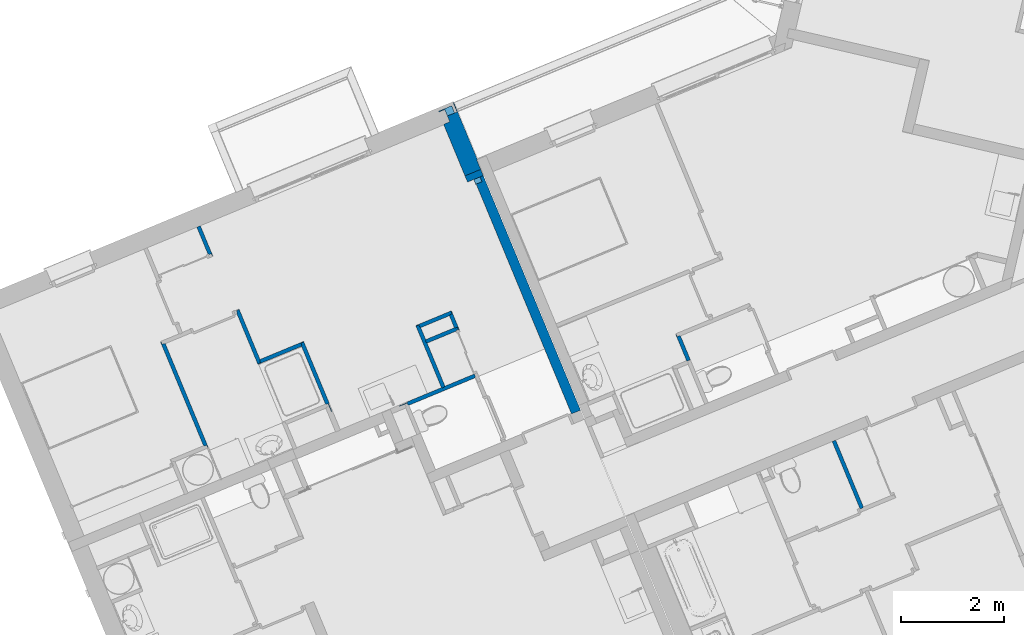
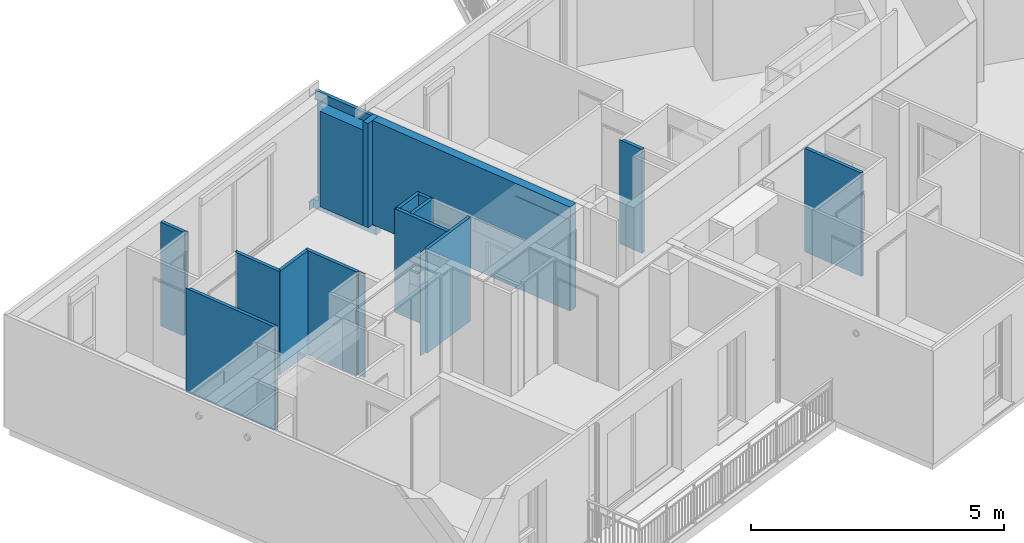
# One storey, part 42 of 90: 15 walls.
"""IFC2X3 building model written with IfcOpenShell, lengths in metres."""

from ifc_helpers import new_model, entity, si_unit, converted_unit, derived_unit, money_unit, direction, frame, origin_with_axes, place, context, subcontext, project, spatial, faceted_brep, material, material_list, type_object, element, save


model = new_model("IFC2X3")

# Units and contexts
model_context = context("Model", 3, precision=1e-05, world=origin_with_axes(), true_north=direction((0.0, 1.0)))
body_context = subcontext(model_context, "Body", "Model", "MODEL_VIEW")
ifc_project = project(units=[si_unit("LENGTHUNIT", "METRE"), si_unit("AREAUNIT", "SQUARE_METRE"), si_unit("VOLUMEUNIT", "CUBIC_METRE"), converted_unit("PLANEANGLEUNIT", "DEGREE", entity("IfcPlaneAngleMeasure", 0.0174532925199), si_unit("PLANEANGLEUNIT", "RADIAN"), dimensions=[0, 0, 0, 0, 0, 0, 0]), si_unit("SOLIDANGLEUNIT", "STERADIAN"), money_unit("EUR"), converted_unit("TIMEUNIT", "Year", entity("IfcTimeMeasure", 31556926.0), si_unit("TIMEUNIT", "SECOND"), dimensions=[0, 0, 1, 0, 0, 0, 0]), si_unit("MASSUNIT", "GRAM", prefix="KILO"), si_unit("THERMODYNAMICTEMPERATUREUNIT", "DEGREE_CELSIUS"), si_unit("LUMINOUSINTENSITYUNIT", "LUMEN"), si_unit("ENERGYUNIT", "JOULE", prefix="MEGA"), derived_unit("THERMALCONDUCTANCEUNIT", [(si_unit("POWERUNIT", "WATT"), 1), (si_unit("LENGTHUNIT", "METRE"), -1), (si_unit("THERMODYNAMICTEMPERATUREUNIT", "KELVIN"), -1)]), derived_unit("SPECIFICHEATCAPACITYUNIT", [(si_unit("ENERGYUNIT", "JOULE"), 1), (si_unit("MASSUNIT", "GRAM", prefix="KILO"), -1), (si_unit("THERMODYNAMICTEMPERATUREUNIT", "KELVIN"), -1)]), derived_unit("MASSDENSITYUNIT", [(si_unit("MASSUNIT", "GRAM", prefix="KILO"), 1), (si_unit("VOLUMEUNIT", "CUBIC_METRE"), -1)])], contexts=[model_context])

# Site, building, storey
site_placement = place(None, origin_with_axes())
site = spatial("IfcSite", under=ifc_project, at=site_placement, Name="Site", CompositionType="ELEMENT")
building_placement = place(site_placement, origin_with_axes())
building = spatial("IfcBuilding", under=site, at=building_placement, Name="Bâtiment", CompositionType="ELEMENT")
storey_placement = place(building_placement, frame((0.0, 0.0, 2.72), z_axis=(0.0, 0.0, 1.0), x_axis=(1.0, 0.0, 0.0)))
storey = spatial("IfcBuildingStorey", under=building, at=storey_placement, Name="R+1", CompositionType="ELEMENT", Elevation=2.72)

# Walls
ifc_material_1 = material(Name="Finition int - Plaque de plâtre")
ifc_material_2 = material(Name="Isolation - Polystyrène extrudé")
ifc_material_3 = material(Name="Bloc ELITHERM")
ifc_material_4 = material(Name="Isolation - Polystyrène expansé")
ifc_material_5 = material(Name="Mortier")
ifc_material_6 = material(Name="Béton cellulaire")
ifc_material_7 = material(Name="Finition ext - Crépis")
ifc_material_list_1 = material_list([ifc_material_1, ifc_material_2, ifc_material_3, ifc_material_4, ifc_material_5, ifc_material_6, ifc_material_7])
wall_type_1 = type_object("IfcWallType", Name="Mur ALKERN + planelle 21 345 x 2720", PredefinedType="USERDEFINED")
wall_1_placement = place(storey_placement, frame((-25.5579248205, -15.1553812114, -0.21), z_axis=(0.0, 0.0, 1.0), x_axis=(-0.383112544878, 0.923701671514, 0.0)))
element("IfcWall", 1, at=wall_1_placement, inside=storey, type_object=wall_type_1, material=ifc_material_list_1, Name="Mue bloc ALKERN isolé", ObjectType="SOLIDWALL", context=body_context, shape_type="Brep", body=[
    faceted_brep([(-0.344999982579, 0.34499998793, 0.21), (-0.344999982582, 0.335000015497, 0.21), (-0.344999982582, 0.335000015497, 2.51), (-0.344999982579, 0.34499998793, 2.51), (0.855000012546, 0.335000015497, 0.21), (0.855000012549, 0.34499998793, 0.21), (0.855000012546, 0.335000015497, 2.50999999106), (0.855000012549, 0.34499998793, 2.50999999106)], [[[0, 1, 2, 3]], [[4, 1, 0, 5]], [[1, 4, 6, 2]], [[2, 6, 7, 3]], [[5, 0, 3, 7]], [[4, 5, 7, 6]]]),
    faceted_brep([(1.11700000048, 0.335000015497, 0.209999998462), (1.11700000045, 0.214999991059, 0.209999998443), (1.1370000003, 0.215000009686, 0.209999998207), (1.13700000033, 0.335000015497, 0.209999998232), (1.11700000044, 0.214999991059, 0.00999999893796), (1.11700000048, 0.335000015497, 0.00999999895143), (1.1370000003, 0.215000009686, 0.009999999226), (1.13700000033, 0.335000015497, 0.00999999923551)], [[[0, 1, 2, 3]], [[4, 1, 0, 5]], [[1, 4, 6, 2]], [[7, 3, 2, 6]], [[5, 0, 3, 7]], [[4, 5, 7, 6]]]),
    faceted_brep([(-0.335000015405, 0.335000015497, 0.21), (-0.335000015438, 0.214999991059, 0.20999999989), (-0.335000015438, 0.215000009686, 2.50999999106), (-0.335000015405, 0.335000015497, 2.50999999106), (0.864999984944, 0.214999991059, 0.209999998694), (0.864999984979, 0.335000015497, 0.21), (0.864999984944, 0.215000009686, 2.50999999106), (0.864999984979, 0.335000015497, 2.50999999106)], [[[0, 1, 2, 3]], [[4, 1, 0, 5]], [[1, 4, 6, 2]], [[7, 3, 2, 6]], [[5, 0, 3, 7]], [[4, 5, 7, 6]]]),
    faceted_brep([(-0.215000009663, 0.0829999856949, 2.50999999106), (-0.215000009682, 0.015, 2.50999999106), (0.985000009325, 0.015, 2.50999999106), (0.985000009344, 0.0829999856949, 2.50999999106), (-0.215000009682, 0.015, 0.21), (-0.215000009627, 0.214999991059, 2.50999999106), (-0.215000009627, 0.214999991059, 0.21), (-0.215000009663, 0.0830000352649, 0.21), (-0.0830000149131, 0.015, 0.209999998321), (-0.0149999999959, 0.0150000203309, 0.209999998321), (0.985000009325, 0.015000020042, 0.21), (0.985000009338, 0.0630000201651, 0.21), (0.985000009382, 0.214999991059, 0.21), (0.985000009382, 0.214999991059, 2.50999999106), (1.1370000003, 0.214999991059, 0.209999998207), (1.1370000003, 0.214999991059, 0.009999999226), (1.11700000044, 0.214999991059, 0.00999999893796), (1.11700000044, 0.214999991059, 0.0), (-0.44499998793, 0.214999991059, 0.0), (-0.44499998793, 0.214999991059, 0.21), (-0.344999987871, 0.214999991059, 0.21), (-0.335000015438, 0.214999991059, 0.21), (-0.335000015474, 0.0830000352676, 0.21), (-0.0830000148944, 0.083000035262, 0.209999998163), (-0.0830000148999, 0.0630000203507, 0.209999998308), (-0.0630000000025, 0.0630000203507, 0.209999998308), (-0.0149999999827, 0.0630000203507, 0.209999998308), (1.13700000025, 0.0630000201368, 0.209999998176), (1.13700000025, 0.0630000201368, 0.00999999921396), (1.13700000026, 0.0830000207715, 0.00999999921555), (1.1170000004, 0.0830000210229, 0.00999999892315), (1.1170000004, 0.0830000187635, 0.0), (-0.0149999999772, 0.0830000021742, 0.0), (-0.0829999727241, 0.0830000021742, 0.0), (-0.44499998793, 0.0829999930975, 0.0), (-0.44499998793, 0.0830000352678, 0.0099999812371), (-0.44499998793, 0.0830000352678, 0.21), (-0.344999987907, 0.0830000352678, 0.21), (-0.0830000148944, 0.083000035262, 0.0099999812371), (-0.062999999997, 0.083000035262, 0.209999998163), (-0.0630000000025, 0.0630000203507, 0.00999998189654), (-0.0149999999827, 0.0630000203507, 0.00999998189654), (-0.0149999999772, 0.0830000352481, 0.0099999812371), (-0.062999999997, 0.083000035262, 0.0099999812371)], [[[0, 1, 2, 3]], [[4, 1, 0, 5, 6, 7]], [[1, 4, 8, 9, 10, 2]], [[3, 2, 10, 11, 12, 13]], [[5, 0, 3, 13]], [[6, 5, 13, 12, 14, 15, 16, 17, 18, 19, 20, 21]], [[21, 22, 7, 6]], [[4, 7, 23, 24, 8]], [[9, 8, 24, 25, 26]], [[11, 10, 9, 26]], [[27, 14, 12, 11]], [[14, 27, 28, 29, 15]], [[15, 29, 30, 16]], [[30, 31, 17, 16]], [[17, 31, 32, 33, 34, 18]], [[35, 36, 19, 18, 34]], [[37, 20, 19, 36]], [[22, 21, 20, 37]], [[7, 22, 37, 36, 35, 38, 23]], [[24, 23, 39, 25]], [[40, 41, 26, 25]], [[28, 27, 11, 26, 41]], [[29, 28, 41, 42, 30]], [[31, 30, 42, 32]], [[43, 38, 33, 32, 42]], [[33, 38, 35, 34]], [[23, 38, 43, 39]], [[43, 40, 25, 39]], [[40, 43, 42, 41]]]),
    faceted_brep([(0.864999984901, 0.0630000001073, 2.51999999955), (0.864999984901, 0.0630000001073, 2.72), (-0.344999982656, 0.0630000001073, 2.72000000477), (-0.344999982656, 0.0630000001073, 2.51999999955), (0.864999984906, 0.083000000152, 2.72), (0.864999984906, 0.083000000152, 2.51999999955), (-0.344999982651, 0.083000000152, 2.72000000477), (-0.344999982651, 0.083000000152, 2.51999999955)], [[[0, 1, 2, 3]], [[4, 1, 0, 5]], [[1, 4, 6, 2]], [[7, 3, 2, 6]], [[5, 0, 3, 7]], [[4, 5, 7, 6]]]),
    faceted_brep([(-0.344999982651, 0.083, 2.52), (-0.34499998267, 0.015, 2.52), (1.19999999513, 0.015, 2.52), (1.19999999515, 0.083, 2.52), (-0.34499998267, 0.015, 2.51), (-0.344999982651, 0.083, 2.51), (1.19999999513, 0.015, 2.51), (1.19999999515, 0.083, 2.51)], [[[0, 1, 2, 3]], [[4, 1, 0, 5]], [[1, 4, 6, 2]], [[3, 2, 6, 7]], [[5, 0, 3, 7]], [[4, 5, 7, 6]]]),
    faceted_brep([(-0.344999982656, 0.0629999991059, 2.72000000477), (-0.34499998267, 0.015, 2.72000000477), (1.19999999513, 0.015, 2.72000000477), (1.19999999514, 0.0629999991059, 2.72000000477), (-0.34499998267, 0.015, 2.51999999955), (-0.344999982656, 0.0629999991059, 2.51999999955), (1.19999999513, 0.015, 2.51999999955), (1.19999999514, 0.0629999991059, 2.51999999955)], [[[0, 1, 2, 3]], [[4, 1, 0, 5]], [[1, 4, 6, 2]], [[3, 2, 6, 7]], [[5, 0, 3, 7]], [[4, 5, 7, 6]]]),
    faceted_brep([(1.19999999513, 0.0149999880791, 2.72000000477), (-0.0149999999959, 0.0149999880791, 2.71999999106), (-0.015, 0.0, 2.71999999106), (1.19999999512, 0.0, 2.72000000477), (-0.0149999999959, 0.0150000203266, 0.21), (1.20000000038, 0.0149999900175, 2.50999999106), (1.1850000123, 0.0149999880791, 2.50999999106), (1.1850000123, 0.015000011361, 0.21), (-1.59095137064e-09, 0.0150000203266, 0.209999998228), (-0.015, 1.926544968e-08, 0.21), (-1.59507429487e-09, 2.35151809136e-08, 0.209999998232), (1.1850000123, 2.31727952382e-08, 0.21), (1.1850000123, 0.0, 2.50999999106), (1.20000000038, 1.93839255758e-09, 2.50999999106)], [[[0, 1, 2, 3]], [[4, 1, 0, 5, 6, 7, 8]], [[9, 2, 1, 4]], [[3, 2, 9, 10, 11, 12, 13]], [[3, 13, 5, 0]], [[5, 13, 12, 6]], [[6, 12, 11, 7]], [[8, 7, 11, 10]], [[10, 9, 4, 8]]]),
])
ifc_material_8 = material(Name="Isolation - Laine de roche")
ifc_material_list_2 = material_list([ifc_material_1, ifc_material_8, ifc_material_1])
wall_type_2 = type_object("IfcWallType", Name="3 - Cloison 72mm Placostil 74", PredefinedType="USERDEFINED")
wall_2_placement = place(storey_placement, frame((-25.5578025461, -19.2928415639, 0.0), z_axis=(0.0, 0.0, 1.0), x_axis=(-0.923701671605, -0.383112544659, 0.0)))
element("IfcWall", 2, at=wall_2_placement, inside=storey, type_object=wall_type_2, material=ifc_material_list_2, Name="Cloison Placostil 72/48", ObjectType="PARTITIONING", context=body_context, shape_type="Brep", body=[
    faceted_brep([(0.0739999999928, 0.061, 2.5), (1.46199999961, 0.061, 2.5), (1.46199999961, 0.0740000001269, 2.5), (0.0739999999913, 0.074, 2.5), (0.0739999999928, 0.061, 0.0), (1.46199999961, 0.061, 0.0), (1.46199999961, 0.0740000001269, 0.0), (0.0739999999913, 0.074, 0.0)], [[[0, 1, 2, 3]], [[4, 5, 1, 0]], [[5, 6, 2, 1]], [[3, 2, 6, 7]], [[3, 7, 4, 0]], [[7, 6, 5, 4]]]),
    faceted_brep([(1.63599999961, 0.0260000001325, 2.5), (1.52299999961, 0.0260000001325, 2.5), (1.47499999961, 0.0260000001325, 2.5), (1.47499999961, 0.061, 2.5), (0.0609999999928, 0.061, 2.5), (0.0609999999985, 0.013, 2.5), (1.63599999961, 0.013, 2.5), (1.63599999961, 0.0260000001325, 0.0), (1.52299999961, 0.0260000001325, 0.0), (1.47499999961, 0.0260000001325, 0.0), (1.47499999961, 0.061, 0.0), (0.0609999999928, 0.061, 0.0), (0.0609999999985, 0.013, 0.0), (1.63599999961, 0.013, 0.0)], [[[0, 1, 2, 3, 4, 5, 6]], [[7, 8, 9, 2, 1, 0]], [[9, 10, 3, 2]], [[4, 3, 10, 11]], [[4, 11, 12, 5]], [[6, 5, 12, 13]], [[13, 7, 0, 6]], [[10, 9, 8, 7, 13, 12, 11]]]),
    faceted_brep([(0.735000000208, 0.0, 2.5), (1.46199999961, 1.32503785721e-10, 2.5), (1.46199999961, 0.0130000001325, 2.5), (0.735000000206, 0.013, 2.5), (0.735000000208, 0.0, 0.0), (1.46199999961, 1.32503785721e-10, 0.0), (1.46199999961, 0.0130000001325, 0.0), (0.735000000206, 0.013, 0.0)], [[[0, 1, 2, 3]], [[4, 5, 1, 0]], [[5, 6, 2, 1]], [[3, 2, 6, 7]], [[3, 7, 4, 0]], [[7, 6, 5, 4]]]),
    faceted_brep([(0.687000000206, 0.013, 0.0), (0.0609999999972, 0.013, 0.0), (0.0609999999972, 0.013, 2.5), (0.687000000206, 0.013, 2.5), (0.687000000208, 0.0, 0.0), (0.061, 0.0, 0.0), (0.061, 0.0, 2.5), (0.687000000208, 0.0, 2.5)], [[[0, 1, 2, 3]], [[4, 5, 1, 0]], [[5, 6, 2, 1]], [[3, 2, 6, 7]], [[3, 7, 4, 0]], [[7, 6, 5, 4]]]),
])
wall_3_placement = place(storey_placement, frame((-25.9026038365, -18.4615100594, 0.0), z_axis=(0.0, 0.0, 1.0), x_axis=(-0.383112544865, 0.923701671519, 0.0)))
element("IfcWall", 3, at=wall_3_placement, inside=storey, type_object=wall_type_2, material=ifc_material_list_2, Name="Cloison Placostil 72/48", ObjectType="PARTITIONING", context=body_context, shape_type="Brep", body=[
    faceted_brep([(0.32472765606, 0.074, 0.0), (0.324727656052, 0.061, 0.0), (0.0740000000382, 0.061, 0.0), (0.0740000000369, 0.074, 0.0), (0.32472765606, 0.074, 2.5), (0.324727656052, 0.061, 2.5), (0.0740000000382, 0.061, 2.5), (0.0740000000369, 0.074, 2.5)], [[[0, 1, 2, 3]], [[1, 0, 4, 5]], [[1, 5, 6, 2]], [[7, 3, 2, 6]], [[4, 0, 3, 7]], [[5, 4, 7, 6]]]),
    faceted_brep([(0.337727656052, 0.061, 0.0), (0.337727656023, 0.013, 0.0), (0.0610000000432, 0.013, 0.0), (0.0610000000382, 0.061, 0.0), (0.337727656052, 0.061, 2.5), (0.337727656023, 0.013, 2.5), (0.0610000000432, 0.013, 2.5), (0.0610000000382, 0.061, 2.5)], [[[0, 1, 2, 3]], [[1, 0, 4, 5]], [[1, 5, 6, 2]], [[7, 3, 2, 6]], [[4, 0, 3, 7]], [[5, 4, 7, 6]]]),
    faceted_brep([(0.0130000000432, 0.013, 0.0), (0.385727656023, 0.013, 0.0), (0.385727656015, 0.0, 0.0), (0.0130000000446, 0.0, 0.0), (0.0130000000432, 0.013, 2.5), (0.385727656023, 0.013, 2.5), (0.385727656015, 0.0, 2.5), (0.0130000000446, 0.0, 2.5)], [[[0, 1, 2, 3]], [[4, 5, 1, 0]], [[6, 2, 1, 5]], [[3, 2, 6, 7]], [[7, 4, 0, 3]], [[7, 6, 5, 4]]]),
])
wall_4_placement = place(storey_placement, frame((-26.5251787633, -18.7197279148, 0.0), z_axis=(0.0, 0.0, 1.0), x_axis=(0.923701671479, 0.383112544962, 0.0)))
element("IfcWall", 4, at=wall_4_placement, inside=storey, type_object=wall_type_2, material=ifc_material_list_2, Name="Cloison Placostil 72/48", ObjectType="PARTITIONING", context=body_context, shape_type="Brep", body=[
    faceted_brep([(0.613000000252, 0.074, 0.0), (0.613000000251, 0.061, 0.0), (1.45170986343e-10, 0.061, 0.0), (1.48048684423e-10, 0.074, 0.0), (0.613000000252, 0.074, 2.5), (0.613000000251, 0.061, 2.5), (1.45170986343e-10, 0.061, 2.5), (1.48048684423e-10, 0.074, 2.5)], [[[0, 1, 2, 3]], [[1, 0, 4, 5]], [[1, 5, 6, 2]], [[7, 3, 2, 6]], [[4, 0, 3, 7]], [[5, 4, 7, 6]]]),
    faceted_brep([(-0.0129999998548, 0.061, 0.0), (0.661000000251, 0.061, 0.0), (0.661000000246, 0.013, 0.0), (-0.0129999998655, 0.013, 0.0), (-0.0129999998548, 0.061, 2.5), (0.661000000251, 0.061, 2.5), (0.661000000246, 0.013, 2.5), (-0.0129999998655, 0.013, 2.5)], [[[0, 1, 2, 3]], [[4, 5, 1, 0]], [[6, 2, 1, 5]], [[3, 2, 6, 7]], [[7, 4, 0, 3]], [[7, 6, 5, 4]]]),
    faceted_brep([(1.31663568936e-10, 0.0, 0.0), (0.613000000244, 0.0, 0.0), (0.613000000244, 0.0, 2.5), (1.31663568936e-10, 0.0, 2.5), (1.3454481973e-10, 0.013, 0.0), (0.613000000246, 0.013, 0.0), (0.613000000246, 0.013, 2.5), (1.3454481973e-10, 0.013, 2.5)], [[[0, 1, 2, 3]], [[4, 5, 1, 0]], [[5, 6, 2, 1]], [[3, 2, 6, 7]], [[3, 7, 4, 0]], [[7, 6, 5, 4]]]),
    faceted_brep([(0.674000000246, 0.013, 2.5), (0.661000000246, 0.013, 2.5), (0.661000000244, 0.0, 2.5), (0.674000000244, 0.0, 2.5), (0.674000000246, 0.013, 0.0), (0.661000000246, 0.013, 0.0), (0.661000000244, 0.0, 0.0), (0.674000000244, 0.0, 0.0)], [[[0, 1, 2, 3]], [[4, 5, 1, 0]], [[5, 6, 2, 1]], [[3, 2, 6, 7]], [[3, 7, 4, 0]], [[7, 6, 5, 4]]]),
])
wall_5_placement = place(storey_placement, frame((-26.1803774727, -19.5510594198, 0.0), z_axis=(0.0, 0.0, 1.0), x_axis=(-0.383112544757, 0.923701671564, 0.0)))
element("IfcWall", 5, at=wall_5_placement, inside=storey, type_object=wall_type_2, material=ifc_material_list_2, Name="Cloison Placostil 72/48", ObjectType="PARTITIONING", context=body_context, shape_type="Brep", body=[
    faceted_brep([(1.29872765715, 0.074, 0.0), (1.29872765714, 0.061, 0.0), (7.02268465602e-10, 0.061, 0.0), (7.0365224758e-10, 0.074, 0.0), (1.29872765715, 0.074, 2.5), (1.29872765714, 0.061, 2.5), (7.02268465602e-10, 0.061, 2.5), (7.0365224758e-10, 0.074, 2.5)], [[[0, 1, 2, 3]], [[1, 0, 4, 5]], [[1, 5, 6, 2]], [[7, 3, 2, 6]], [[4, 0, 3, 7]], [[5, 4, 7, 6]]]),
    faceted_brep([(1.28572765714, 0.061, 0.0), (1.28572765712, 0.013, 0.0), (-0.0129999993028, 0.013, 0.0), (-0.0129999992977, 0.061, 0.0), (1.28572765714, 0.061, 2.5), (1.28572765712, 0.013, 2.5), (-0.0129999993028, 0.013, 2.5), (-0.0129999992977, 0.061, 2.5)], [[[0, 1, 2, 3]], [[1, 0, 4, 5]], [[1, 5, 6, 2]], [[7, 3, 2, 6]], [[4, 0, 3, 7]], [[5, 4, 7, 6]]]),
    faceted_brep([(1.23772765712, 0.013, 0.0), (1.23772765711, 0.0, 0.0), (0.961000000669, 0.0, 0.0), (0.961000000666, 0.013, 0.0), (1.23772765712, 0.013, 2.5), (1.23772765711, 0.0, 2.5), (0.961000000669, 0.0, 2.5), (0.961000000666, 0.013, 2.5)], [[[0, 1, 2, 3]], [[1, 0, 4, 5]], [[1, 5, 6, 2]], [[7, 3, 2, 6]], [[4, 0, 3, 7]], [[5, 4, 7, 6]]]),
    faceted_brep([(0.913000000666, 0.013, 0.0), (0.913000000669, 0.0, 0.0), (6.9576699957e-10, 0.0, 0.0), (6.97149005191e-10, 0.013, 0.0), (0.913000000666, 0.013, 2.5), (0.913000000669, 0.0, 2.5), (6.9576699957e-10, 0.0, 2.5), (6.97149005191e-10, 0.013, 2.5)], [[[0, 1, 2, 3]], [[1, 0, 4, 5]], [[1, 5, 6, 2]], [[7, 3, 2, 6]], [[4, 0, 3, 7]], [[5, 4, 7, 6]]]),
])
wall_6_placement = place(storey_placement, frame((-28.9136794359, -18.6851546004, 0.0), z_axis=(0.0, 0.0, 1.0), x_axis=(0.38311254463, -0.923701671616, 0.0)))
element("IfcWall", 6, at=wall_6_placement, inside=storey, type_object=wall_type_2, material=ifc_material_list_2, Name="Cloison Placostil 72/48", ObjectType="PARTITIONING", context=body_context, shape_type="Brep", body=[
    faceted_brep([(0.0, -0.013, 2.5), (1.28399999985, -0.013, 2.5), (1.28399999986, 0.0, 2.5), (0.0, 0.0, 2.5), (0.0, -0.013, 0.0), (1.28399999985, -0.013, 0.0), (1.28399999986, 0.0, 0.0), (0.0, 0.0, 0.0)], [[[0, 1, 2, 3]], [[4, 5, 1, 0]], [[5, 6, 2, 1]], [[3, 2, 6, 7]], [[4, 0, 3, 7]], [[7, 6, 5, 4]]]),
    faceted_brep([(0.0130000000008, -0.061, 2.5), (1.29699999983, -0.061, 2.5), (1.29699999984, -0.0260000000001, 2.5), (1.34499999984, -0.0260000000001, 2.5), (1.45799999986, -0.0260000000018, 2.5), (1.45799999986, -0.013, 2.5), (0.0130000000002, -0.013, 2.5), (0.0130000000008, -0.061, 0.0), (1.29699999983, -0.061, 0.0), (1.29699999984, -0.0260000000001, 0.0), (1.34499999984, -0.0260000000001, 0.0), (1.45799999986, -0.0260000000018, 0.0), (1.45799999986, -0.013, 0.0), (0.0130000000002, -0.013, 0.0)], [[[0, 1, 2, 3, 4, 5, 6]], [[7, 8, 1, 0]], [[9, 2, 1, 8]], [[4, 3, 2, 9, 10, 11]], [[5, 4, 11, 12]], [[12, 13, 6, 5]], [[7, 0, 6, 13]], [[10, 9, 8, 7, 13, 12, 11]]]),
    faceted_brep([(0.061000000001, -0.074, 2.5), (1.28399999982, -0.0740000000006, 2.5), (1.28399999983, -0.061, 2.5), (0.0610000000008, -0.061, 2.5), (0.061000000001, -0.074, 0.0), (1.28399999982, -0.0740000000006, 0.0), (1.28399999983, -0.061, 0.0), (0.0610000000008, -0.061, 0.0)], [[[0, 1, 2, 3]], [[4, 5, 1, 0]], [[5, 6, 2, 1]], [[3, 2, 6, 7]], [[4, 0, 3, 7]], [[7, 6, 5, 4]]]),
])
wall_7_placement = place(storey_placement, frame((-21.6551757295, -18.5120342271, 0.0), z_axis=(0.0, 0.0, 1.0), x_axis=(0.383112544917, -0.923701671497, 0.0)))
element("IfcWall", 7, at=wall_7_placement, inside=storey, type_object=wall_type_2, material=ifc_material_list_2, Name="Cloison Placostil 72/48", ObjectType="PARTITIONING", context=body_context, shape_type="Brep", body=[
    faceted_brep([(0.0740000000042, -0.013, 2.5), (0.573999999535, -0.013, 2.5), (0.573999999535, 0.0, 2.5), (0.074, 0.0, 2.5), (0.0740000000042, -0.013, 0.0), (0.573999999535, -0.013, 0.0), (0.573999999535, 0.0, 0.0), (0.074, 0.0, 0.0)], [[[0, 1, 2, 3]], [[4, 5, 1, 0]], [[2, 1, 5, 6]], [[3, 2, 6, 7]], [[4, 0, 3, 7]], [[7, 6, 5, 4]]]),
    faceted_brep([(0.0610000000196, -0.061, 2.5), (0.573999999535, -0.061, 2.5), (0.573999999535, -0.013, 2.5), (0.0610000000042, -0.013, 2.5), (0.0610000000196, -0.061, 0.0), (0.573999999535, -0.061, 0.0), (0.573999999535, -0.013, 0.0), (0.0610000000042, -0.013, 0.0)], [[[0, 1, 2, 3]], [[4, 5, 1, 0]], [[2, 1, 5, 6]], [[3, 2, 6, 7]], [[4, 0, 3, 7]], [[7, 6, 5, 4]]]),
    faceted_brep([(0.573999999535, -0.074, 2.5), (0.573999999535, -0.061, 2.5), (0.0130000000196, -0.061, 2.5), (0.0130000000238, -0.074, 2.5), (0.573999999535, -0.074, 0.0), (0.573999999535, -0.061, 0.0), (0.0130000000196, -0.061, 0.0), (0.0130000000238, -0.074, 0.0)], [[[0, 1, 2, 3]], [[1, 0, 4, 5]], [[1, 5, 6, 2]], [[7, 3, 2, 6]], [[4, 0, 3, 7]], [[5, 4, 7, 6]]]),
])
wall_8_placement = place(storey_placement, frame((-30.8490440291, -20.7036228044, 0.0), z_axis=(0.0, 0.0, 1.0), x_axis=(-0.383112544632, 0.923701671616, 0.0)))
element("IfcWall", 8, at=wall_8_placement, inside=storey, type_object=wall_type_2, material=ifc_material_list_2, Name="Cloison Placostil 72/48", ObjectType="PARTITIONING", context=body_context, shape_type="Brep", body=[
    faceted_brep([(2.16755054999, -0.013, 2.5), (2.16755054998, 0.0, 2.5), (0.0, 0.0, 2.5), (0.0, -0.013, 2.5), (2.16755054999, -0.013, 0.0), (2.16755054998, 0.0, 0.0), (0.0, 0.0, 0.0), (0.0, -0.013, 0.0)], [[[0, 1, 2, 3]], [[1, 0, 4, 5]], [[1, 5, 6, 2]], [[7, 3, 2, 6]], [[4, 0, 3, 7]], [[5, 4, 7, 6]]]),
    faceted_brep([(2.11955055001, -0.061, 2.5), (2.11955054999, -0.013, 2.5), (-0.0130000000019, -0.013, 2.5), (-0.013000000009, -0.061, 2.5), (2.11955055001, -0.061, 0.0), (2.11955054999, -0.013, 0.0), (-0.0130000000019, -0.013, 0.0), (-0.013000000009, -0.061, 0.0)], [[[0, 1, 2, 3]], [[1, 0, 4, 5]], [[1, 5, 6, 2]], [[7, 3, 2, 6]], [[4, 0, 3, 7]], [[5, 4, 7, 6]]]),
    faceted_brep([(2.10655055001, -0.074, 2.5), (2.10655055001, -0.061, 2.5), (-0.061000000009, -0.061, 2.5), (-0.0610000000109, -0.074, 2.5), (2.10655055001, -0.074, 0.0), (2.10655055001, -0.061, 0.0), (-0.061000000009, -0.061, 0.0), (-0.0610000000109, -0.074, 0.0)], [[[0, 1, 2, 3]], [[1, 0, 4, 5]], [[1, 5, 6, 2]], [[7, 3, 2, 6]], [[4, 0, 3, 7]], [[5, 4, 7, 6]]]),
])
wall_9_placement = place(storey_placement, frame((-26.6779363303, -18.351422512, 0.0), z_axis=(0.0, 0.0, 1.0), x_axis=(0.923701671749, 0.383112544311, 0.0)))
element("IfcWall", 9, at=wall_9_placement, inside=storey, type_object=wall_type_2, material=ifc_material_list_2, Name="Cloison Placostil 72/48", ObjectType="PARTITIONING", context=body_context, shape_type="Brep", body=[
    faceted_brep([(0.674000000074, -0.013, 2.5), (0.674000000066, 0.0, 2.5), (-0.061, 0.0, 2.5), (-0.0609999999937, -0.013, 2.5), (0.674000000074, -0.013, 0.0), (0.674000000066, 0.0, 0.0), (-0.061, 0.0, 0.0), (-0.0609999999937, -0.013, 0.0)], [[[0, 1, 2, 3]], [[1, 0, 4, 5]], [[1, 5, 6, 2]], [[7, 3, 2, 6]], [[4, 0, 3, 7]], [[5, 4, 7, 6]]]),
    faceted_brep([(0.661000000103, -0.061, 2.5), (0.661000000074, -0.013, 2.5), (-0.0129999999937, -0.013, 2.5), (-0.0129999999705, -0.061, 2.5), (0.661000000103, -0.061, 0.0), (0.661000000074, -0.013, 0.0), (-0.0129999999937, -0.013, 0.0), (-0.0129999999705, -0.061, 0.0)], [[[0, 1, 2, 3]], [[1, 0, 4, 5]], [[1, 5, 6, 2]], [[7, 3, 2, 6]], [[4, 0, 3, 7]], [[5, 4, 7, 6]]]),
    faceted_brep([(0.61300000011, -0.074, 2.5), (0.613000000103, -0.061, 2.5), (0.0, -0.061, 2.5), (0.0, -0.074, 2.5), (0.61300000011, -0.074, 0.0), (0.613000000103, -0.061, 0.0), (0.0, -0.061, 0.0), (0.0, -0.074, 0.0)], [[[0, 1, 2, 3]], [[1, 0, 4, 5]], [[1, 5, 6, 2]], [[7, 3, 2, 6]], [[4, 0, 3, 7]], [[5, 4, 7, 6]]]),
])
wall_10_placement = place(storey_placement, frame((-29.8253729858, -19.063286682, 0.0), z_axis=(0.0, 0.0, 1.0), x_axis=(-0.383112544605, 0.923701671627, 0.0)))
element("IfcWall", 10, at=wall_10_placement, inside=storey, type_object=wall_type_2, material=ifc_material_list_2, Name="Cloison Placostil 72/48", ObjectType="PARTITIONING", context=body_context, shape_type="Brep", body=[
    faceted_brep([(0.996550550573, -0.013, 2.5), (0.996550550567, 0.0, 2.5), (-0.074, 0.0, 2.5), (-0.0739999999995, -0.013, 2.5), (0.996550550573, -0.013, 0.0), (0.996550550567, 0.0, 0.0), (-0.074, 0.0, 0.0), (-0.0739999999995, -0.013, 0.0)], [[[0, 1, 2, 3]], [[1, 0, 4, 5]], [[1, 5, 6, 2]], [[7, 3, 2, 6]], [[4, 0, 3, 7]], [[5, 4, 7, 6]]]),
    faceted_brep([(1.0445505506, -0.061, 2.5), (1.04455055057, -0.013, 2.5), (-0.0609999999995, -0.013, 2.5), (-0.0609999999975, -0.061, 2.5), (1.0445505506, -0.061, 0.0), (1.04455055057, -0.013, 0.0), (-0.0609999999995, -0.013, 0.0), (-0.0609999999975, -0.061, 0.0)], [[[0, 1, 2, 3]], [[1, 0, 4, 5]], [[1, 5, 6, 2]], [[7, 3, 2, 6]], [[4, 0, 3, 7]], [[5, 4, 7, 6]]]),
    faceted_brep([(1.0575505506, -0.074, 2.5), (1.0575505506, -0.061, 2.5), (-0.0129999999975, -0.061, 2.5), (-0.0129999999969, -0.074, 2.5), (1.0575505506, -0.074, 0.0), (1.0575505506, -0.061, 0.0), (-0.0129999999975, -0.061, 0.0), (-0.0129999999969, -0.074, 0.0)], [[[0, 1, 2, 3]], [[1, 0, 4, 5]], [[1, 5, 6, 2]], [[7, 3, 2, 6]], [[4, 0, 3, 7]], [[5, 4, 7, 6]]]),
])
wall_11_placement = place(storey_placement, frame((-28.9136794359, -18.6851546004, 0.0), z_axis=(0.0, 0.0, 1.0), x_axis=(-0.923701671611, -0.383112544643, 0.0)))
element("IfcWall", 11, at=wall_11_placement, inside=storey, type_object=wall_type_2, material=ifc_material_list_2, Name="Cloison Placostil 72/48", ObjectType="PARTITIONING", context=body_context, shape_type="Brep", body=[
    faceted_brep([(0.974000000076, 0.074, 0.0), (0.974000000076, 0.061, 0.0), (0.0740000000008, 0.061, 0.0), (0.074000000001, 0.074, 0.0), (0.974000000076, 0.074, 2.5), (0.974000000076, 0.061, 2.5), (0.0740000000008, 0.061, 2.5), (0.074000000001, 0.074, 2.5)], [[[0, 1, 2, 3]], [[1, 0, 4, 5]], [[1, 5, 6, 2]], [[7, 3, 2, 6]], [[4, 0, 3, 7]], [[5, 4, 7, 6]]]),
    faceted_brep([(0.926000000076, 0.061, 0.0), (0.926000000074, 0.013, 0.0), (0.0610000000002, 0.013, 0.0), (0.0610000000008, 0.061, 0.0), (0.926000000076, 0.061, 2.5), (0.926000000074, 0.013, 2.5), (0.0610000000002, 0.013, 2.5), (0.0610000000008, 0.061, 2.5)], [[[0, 1, 2, 3]], [[1, 0, 4, 5]], [[1, 5, 6, 2]], [[7, 3, 2, 6]], [[4, 0, 3, 7]], [[5, 4, 7, 6]]]),
    faceted_brep([(0.913000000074, 0.013, 0.0), (0.913000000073, 0.0, 0.0), (0.013, 0.0, 0.0), (0.0130000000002, 0.013, 0.0), (0.913000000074, 0.013, 2.5), (0.913000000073, 0.0, 2.5), (0.013, 0.0, 2.5), (0.0130000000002, 0.013, 2.5)], [[[0, 1, 2, 3]], [[1, 0, 4, 5]], [[1, 5, 6, 2]], [[7, 3, 2, 6]], [[4, 0, 3, 7]], [[5, 4, 7, 6]]]),
])
wall_12_placement = place(storey_placement, frame((-30.7336003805, -17.069274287, 0.0), z_axis=(0.0, 0.0, 1.0), x_axis=(-0.383112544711, 0.923701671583, 0.0)))
element("IfcWall", 12, at=wall_12_placement, inside=storey, type_object=wall_type_2, material=ifc_material_list_2, Name="Cloison Placostil 72/48", ObjectType="PARTITIONING", context=body_context, shape_type="Brep", body=[
    faceted_brep([(0.0739999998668, -0.013, 2.5), (0.640000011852, -0.013, 2.5), (0.640000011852, 0.0, 2.5), (0.0739999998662, 0.0, 2.5), (0.0739999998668, -0.013, 0.0), (0.640000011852, -0.013, 0.0), (0.640000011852, 0.0, 0.0), (0.0739999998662, 0.0, 0.0)], [[[0, 1, 2, 3]], [[4, 5, 1, 0]], [[2, 1, 5, 6]], [[3, 2, 6, 7]], [[4, 0, 3, 7]], [[7, 6, 5, 4]]]),
    faceted_brep([(0.0609999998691, -0.061, 2.5), (0.640000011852, -0.061, 2.5), (0.640000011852, -0.013, 2.5), (0.0609999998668, -0.013, 2.5), (0.0609999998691, -0.061, 0.0), (0.640000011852, -0.061, 0.0), (0.640000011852, -0.013, 0.0), (0.0609999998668, -0.013, 0.0)], [[[0, 1, 2, 3]], [[4, 5, 1, 0]], [[2, 1, 5, 6]], [[3, 2, 6, 7]], [[4, 0, 3, 7]], [[7, 6, 5, 4]]]),
    faceted_brep([(0.0129999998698, -0.074, 2.5), (0.640000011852, -0.074, 2.5), (0.640000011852, -0.061, 2.5), (0.0129999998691, -0.061, 2.5), (0.0129999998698, -0.074, 0.0), (0.640000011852, -0.074, 0.0), (0.640000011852, -0.061, 0.0), (0.0129999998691, -0.061, 0.0)], [[[0, 1, 2, 3]], [[4, 5, 1, 0]], [[2, 1, 5, 6]], [[3, 2, 6, 7]], [[4, 0, 3, 7]], [[7, 6, 5, 4]]]),
])
wall_13_placement = place(storey_placement, frame((-18.0615454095, -21.9560413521, 0.0), z_axis=(0.0, 0.0, 1.0), x_axis=(-0.383112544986, 0.923701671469, 0.0)))
element("IfcWall", 13, at=wall_13_placement, inside=storey, type_object=wall_type_2, material=ifc_material_list_2, Name="Cloison Placostil 72/48", ObjectType="PARTITIONING", context=body_context, shape_type="Brep", body=[
    faceted_brep([(1.47400000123, 0.061, 2.49), (0.0739999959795, 0.061, 2.49), (0.0739999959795, 0.061, 0.0), (1.47400000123, 0.061, 0.0), (0.0739999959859, 0.074, 2.49), (1.47400000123, 0.074, 2.49), (0.0739999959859, 0.074, 0.0), (1.47400000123, 0.074, 0.0)], [[[0, 1, 2, 3]], [[4, 1, 0, 5]], [[1, 4, 6, 2]], [[6, 7, 3, 2]], [[5, 0, 3, 7]], [[4, 5, 7, 6]]]),
    faceted_brep([(1.47400000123, 0.013, 2.49), (0.0609999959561, 0.013, 2.49), (0.0609999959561, 0.013, 0.0), (1.47400000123, 0.013, 0.0), (0.0609999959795, 0.061, 2.49), (1.47400000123, 0.061, 2.49), (0.0609999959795, 0.061, 0.0), (1.47400000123, 0.061, 0.0)], [[[0, 1, 2, 3]], [[4, 1, 0, 5]], [[1, 4, 6, 2]], [[6, 7, 3, 2]], [[5, 0, 3, 7]], [[4, 5, 7, 6]]]),
    faceted_brep([(1.47400000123, 0.0, 2.49), (0.0739999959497, 0.0, 2.49), (0.0739999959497, 0.0, 0.0), (1.47400000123, 0.0, 0.0), (0.0739999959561, 0.013, 2.49), (1.47400000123, 0.013, 2.49), (0.0739999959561, 0.013, 0.0), (1.47400000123, 0.013, 0.0)], [[[0, 1, 2, 3]], [[4, 1, 0, 5]], [[1, 4, 6, 2]], [[6, 7, 3, 2]], [[5, 0, 3, 7]], [[4, 5, 7, 6]]]),
])
ifc_material_9 = material(Name="Béton")
ifc_material_10 = material(Name="Finition int - Enduit plâtre")
ifc_material_list_3 = material_list([ifc_material_9, ifc_material_10])
wall_type_3 = type_object("IfcWallType", Name="2 - Murs Béton 18 + Enduit 1 Face 190", PredefinedType="USERDEFINED")
wall_14_placement = place(storey_placement, frame((-25.4434376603, -15.4705679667, 0.0), z_axis=(0.0, 0.0, 1.0), x_axis=(0.383112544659, -0.923701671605, 0.0)))
element("IfcWall", 14, at=wall_14_placement, inside=storey, type_object=wall_type_3, material=ifc_material_list_3, Name="M_Ext-008", ObjectType="SOLIDWALL", context=body_context, shape_type="Brep", body=[
    faceted_brep([(0.0, 0.0, 2.51), (4.9208258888, 0.0, 2.51), (4.9208258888, 0.0, 0.0), (0.0, 0.0, 0.0), (4.92082588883, -0.18, 2.51), (0.0, -0.18, 2.51), (4.92082588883, -0.18, 0.0), (0.0, -0.18, 0.0)], [[[0, 1, 2, 3]], [[4, 1, 0, 5]], [[1, 4, 6, 2]], [[2, 6, 7, 3]], [[5, 0, 3, 7]], [[4, 5, 7, 6]]]),
    faceted_brep([(4.91082588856, -0.19, 2.5), (4.91082588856, -0.18, 2.5), (4.91082588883, -0.18, 2.51), (4.91082588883, -0.19, 2.51), (3.56082588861, -0.18, 2.5), (3.56082588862, -0.19, 2.5), (3.56082588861, -0.18, 2.2), (4.91082588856, -0.18, 2.2), (4.91082588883, -0.18, 0.0), (0.0, -0.18, 0.0), (0.0, -0.18, 2.51), (0.0, -0.19, 2.51), (0.0, -0.19, 0.0), (4.91082588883, -0.19, 0.0), (4.91082588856, -0.19, 2.2), (3.56082588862, -0.19, 2.2)], [[[0, 1, 2, 3]], [[4, 1, 0, 5]], [[6, 7, 8, 9, 10, 2, 1, 4]], [[3, 2, 10, 11]], [[5, 0, 3, 11, 12, 13, 14, 15]], [[6, 4, 5, 15]], [[14, 7, 6, 15]], [[7, 14, 13, 8]], [[8, 13, 12, 9]], [[11, 10, 9, 12]]]),
])
ifc_material_11 = material(Name="Divers - Vide")
ifc_material_list_4 = material_list([ifc_material_1, ifc_material_2, ifc_material_11, ifc_material_9])
wall_type_4 = type_object("IfcWallType", Name="1 - Mur Extérieur BETON 18 +Isolant 120 330", PredefinedType="USERDEFINED")
wall_15_placement = place(storey_placement, frame((-25.4396065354, -15.4798049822, 0.0), z_axis=(0.0, 0.0, 1.0), x_axis=(-0.38311254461, 0.923701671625, 0.0)))
element("IfcWall", 15, at=wall_15_placement, inside=storey, type_object=wall_type_4, material=ifc_material_list_4, Name="M_Ext-008", ObjectType="SOLIDWALL", context=body_context, shape_type="Brep", body=[
    faceted_brep([(0.129999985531, 0.32, 2.51), (0.0, 0.32, 2.51), (0.0, 0.32, 0.0), (0.129999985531, 0.32, 0.0), (0.0, 0.33, 2.51), (0.129999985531, 0.33, 2.51), (0.0, 0.33, 0.0), (0.129999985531, 0.33, 0.0)], [[[0, 1, 2, 3]], [[4, 1, 0, 5]], [[1, 4, 6, 2]], [[6, 7, 3, 2]], [[5, 0, 3, 7]], [[4, 5, 7, 6]]]),
    faceted_brep([(0.129999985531, 0.2, 2.51), (0.0, 0.2, 2.51), (0.0, 0.2, 0.0), (0.129999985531, 0.2, 0.0), (0.0, 0.32, 2.51), (0.129999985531, 0.32, 2.51), (0.0, 0.32, 0.0), (0.129999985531, 0.32, 0.0)], [[[0, 1, 2, 3]], [[4, 1, 0, 5]], [[1, 4, 6, 2]], [[6, 7, 3, 2]], [[5, 0, 3, 7]], [[4, 5, 7, 6]]]),
    faceted_brep([(0.129999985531, 0.18, 2.51), (0.0, 0.18, 2.51), (0.0, 0.18, 0.0), (0.129999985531, 0.18, 0.0), (0.0, 0.2, 2.51), (0.129999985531, 0.2, 2.51), (0.0, 0.2, 0.0), (0.129999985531, 0.2, 0.0)], [[[0, 1, 2, 3]], [[4, 1, 0, 5]], [[1, 4, 6, 2]], [[6, 7, 3, 2]], [[5, 0, 3, 7]], [[4, 5, 7, 6]]]),
    faceted_brep([(0.129999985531, 0.0, 2.51), (0.0, 0.0, 2.51), (0.0, 0.0, 0.0), (0.129999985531, 0.0, 0.0), (0.0, 0.18, 2.51), (0.129999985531, 0.18, 2.51), (0.0, 0.18, 0.0), (0.129999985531, 0.18, 0.0)], [[[0, 1, 2, 3]], [[4, 1, 0, 5]], [[1, 4, 6, 2]], [[6, 7, 3, 2]], [[5, 0, 3, 7]], [[4, 5, 7, 6]]]),
])

save(model, "model.ifc")
